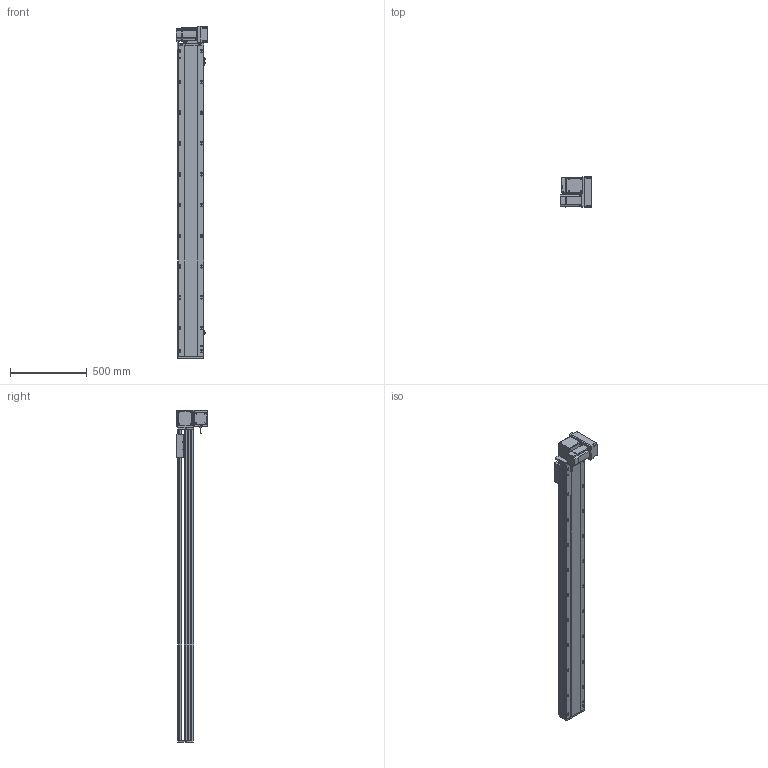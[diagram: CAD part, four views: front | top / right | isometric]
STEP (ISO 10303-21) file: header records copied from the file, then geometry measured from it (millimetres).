
FILE_DESCRIPTION (( 'STEP AP214' ), '1' );
FILE_NAME ('RTB17S-XX-1750-RM-M75-C4.STEP', '2025-12-12T02:10:45', ( '' ), ( '' ), 'SwSTEP 2.0', 'SolidWorks 2018', '' );
FILE_SCHEMA (( 'AUTOMOTIVE_DESIGN' ));
Length unit declared in the file: millimetre
Products named in the file (15): RTB17S-L-004-賑釱^RTB17S-賑釱_RTB17S-XX-XX-RM-M75-C4; RTB22S-GY-008-M75--萇儂啣^RTB17S-RM-々湍釱蚾饜-750W_RTB17S-XX-XX-RM-M75-C4; RTB17S-L-014-T20-P75--々湍釱^RTB17S-RM-々湍釱蚾饜-750W_RTB17S-XX-XX-RM-M75-C4; RTH13-BL-012覜茼え俋离^RTB17S-賑釱_RTB17S-XX-XX-RM-M75-C4; 750W萇儂^RTB17S-XX-XX-RM-M75-C4; RTB17S-賑釱^RTB17S-XX-XX-RM-M75-C4; RTB17-R-011菁釱^RTB17S-XX-XX-RM-M75-C4; RTB17S-L-001-耜醱啣^RTB17S-XX-XX-RM-M75-C4; EE672^RTB17S-XX-XX-RM-M75-C4; RTB17S-L-007奻裔^RTB17S-XX-XX-RM-M75-C4; RTB22S-GY-005P^RTB17S-RM-々湍釱蚾饜-750W_RTB17S-XX-XX-RM-M75-C4; RTB17S-RM-々湍釱蚾饜-750W^RTB17S-XX-XX-RM-M75-C4; RTB22S-GY-018P^RTB17S-RM-々湍釱蚾饜-750W_RTB17S-XX-XX-RM-M75-C4; RTB17S-XX-1750-RM-M75-C4; RTB22S-GY-017P^RTB17S-RM-々湍釱蚾饜-750W_RTB17S-XX-XX-RM-M75-C4
Assembly tree (17 placements, depth 3):
  RTB17S-XX-1750-RM-M75-C4
    RTB17-R-011菁釱^RTB17S-XX-XX-RM-M75-C4
    EE672^RTB17S-XX-XX-RM-M75-C4  x3
    RTB17S-L-001-耜醱啣^RTB17S-XX-XX-RM-M75-C4
    RTB17S-賑釱^RTB17S-XX-XX-RM-M75-C4
      RTB17S-L-004-賑釱^RTB17S-賑釱_RTB17S-XX-XX-RM-M75-C4
      RTH13-BL-012覜茼え俋离^RTB17S-賑釱_RTB17S-XX-XX-RM-M75-C4
    RTB17S-L-007奻裔^RTB17S-XX-XX-RM-M75-C4
    750W萇儂^RTB17S-XX-XX-RM-M75-C4
    RTB17S-RM-々湍釱蚾饜-750W^RTB17S-XX-XX-RM-M75-C4
      RTB17S-L-014-T20-P75--々湍釱^RTB17S-RM-々湍釱蚾饜-750W_RTB17S-XX-XX-RM-M75-C4
      RTB22S-GY-005P^RTB17S-RM-々湍釱蚾饜-750W_RTB17S-XX-XX-RM-M75-C4
      RTB22S-GY-017P^RTB17S-RM-々湍釱蚾饜-750W_RTB17S-XX-XX-RM-M75-C4  x2
      RTB22S-GY-008-M75--萇儂啣^RTB17S-RM-々湍釱蚾饜-750W_RTB17S-XX-XX-RM-M75-C4
      RTB22S-GY-018P^RTB17S-RM-々湍釱蚾饜-750W_RTB17S-XX-XX-RM-M75-C4
Bounding box: 207.4 x 200 x 2157.5 mm (x, y, z)
Volume: 16889508.2 mm3; surface area: 2992166 mm2
Topology: 17 solids, 17 shells, 2153 faces, 5998 edges, 3878 vertices
Faces by surface type: plane 978, cylinder 759, bspline 294, cone 110, sphere 8, torus 4
Entity records: 61174 total; most frequent: CARTESIAN_POINT 18062, ORIENTED_EDGE 8840, DIRECTION 8222, EDGE_CURVE 4420, AXIS2_PLACEMENT_3D 2898, VERTEX_POINT 2882, LINE 2426, VECTOR 2426
